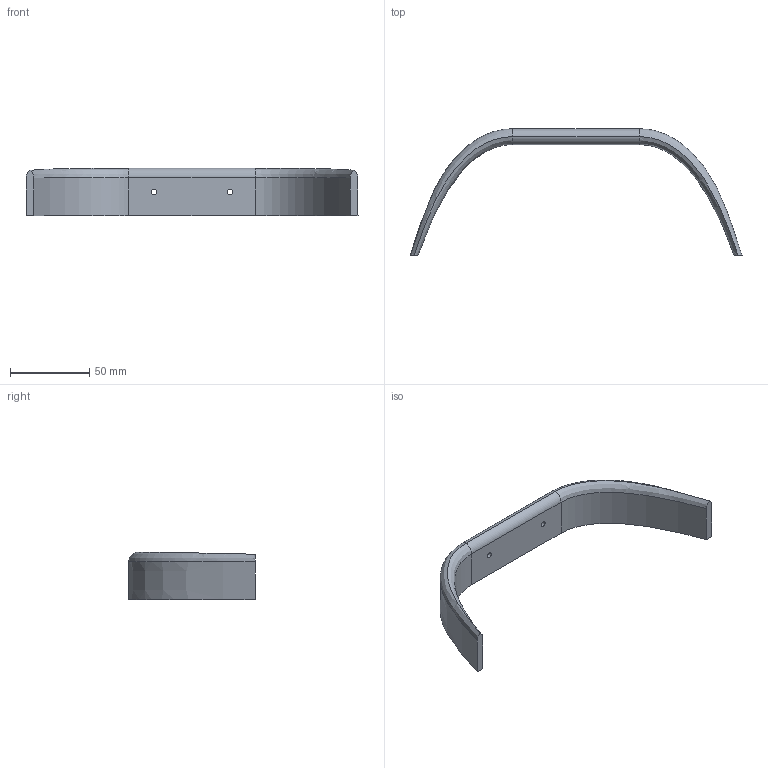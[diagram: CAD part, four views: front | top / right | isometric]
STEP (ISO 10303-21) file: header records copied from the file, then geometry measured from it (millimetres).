
FILE_DESCRIPTION((''),'2;1');
FILE_NAME('3DPRINT-LANDINGGEAR','2020-06-03T',('Administrator'),(''),'PRO/ENGINEER BY PARAMETRIC TECHNOLOGY CORPORATION, 2007170','PRO/ENGINEER BY PARAMETRIC TECHNOLOGY CORPORATION, 2007170','');
FILE_SCHEMA(('CONFIG_CONTROL_DESIGN'));
Length unit declared in the file: millimetre
Products named in the file (1): 3DPRINT-LANDINGGEAR
Bounding box: 210 x 80 x 29.92 mm (x, y, z)
Volume: 68422.1 mm3; surface area: 21093.2 mm2
Topology: 1 solids, 1 shells, 19 faces, 45 edges, 28 vertices
Faces by surface type: cylinder 6, plane 5, extrusion 4, bspline 4
Entity records: 1408 total; most frequent: CARTESIAN_POINT 955, ORIENTED_EDGE 90, DIRECTION 69, EDGE_CURVE 45, VERTEX_POINT 28, VECTOR 23, AXIS2_PLACEMENT_3D 23, EDGE_LOOP 23
